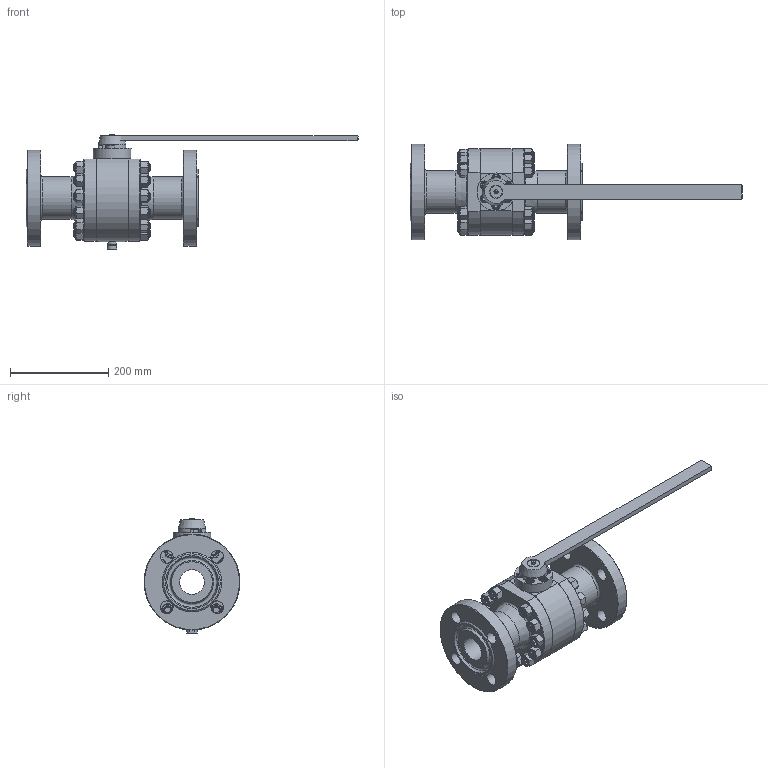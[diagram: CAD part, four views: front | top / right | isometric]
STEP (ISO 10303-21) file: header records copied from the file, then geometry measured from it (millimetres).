
FILE_DESCRIPTION(('STEP AP203'), '1');
FILE_NAME('ZARDP 050.160.27.P.stp', '2013-12-06T07:47:53', ('Øèøêî'), ('ÎÎÎ ÈÊ Ýíåðïðåä-ßðäîñ'), 'ASCON STEP Converter 1.3', 'Kompas 3D', '');
FILE_SCHEMA(('CONFIG_CONTROL_DESIGN','SUPPORT_RESOURCE_SCHEMA'));
Length unit declared in the file: millimetre
Products named in the file (1): 178
Bounding box: 675 x 195 x 235.17 mm (x, y, z)
Volume: 4833636.9 mm3; surface area: 556804.2 mm2
Topology: 1 solids, 32 shells, 843 faces, 1831 edges, 1151 vertices
Faces by surface type: plane 467, cone 202, cylinder 168, torus 6
Full cylindrical faces by diameter (mm): 5 x1, 5.3 x1, 8 x8, 8.5 x1, 9.38 x6, 10 x6, 11 x6, 14.5 x1, 16 x54, 17 x6, 17.33 x1, 18 x24, 23.5 x1, 24.8 x1, 25 x2, 26 x9, 34.5 x1, 35 x1, 40 x1, 50 x2, 56 x1, 77 x1, 86 x2, 95 x1, 195 x2
Entity records: 37203 total; most frequent: CARTESIAN_POINT 18882, DIRECTION 3812, ORIENTED_EDGE 3650, EDGE_CURVE 1825, AXIS2_PLACEMENT_3D 1540, VERTEX_POINT 1151, EDGE_LOOP 990, ADVANCED_FACE 843
